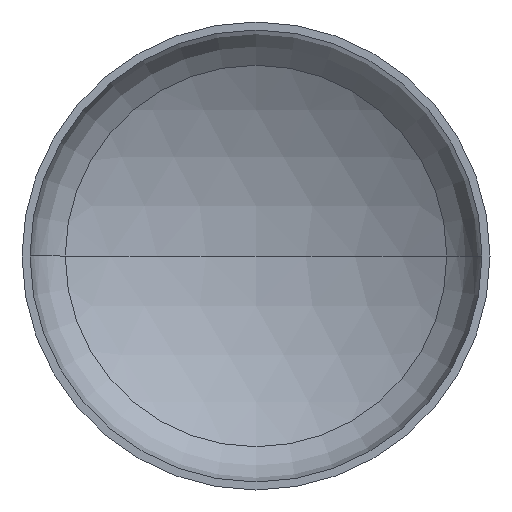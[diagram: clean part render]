
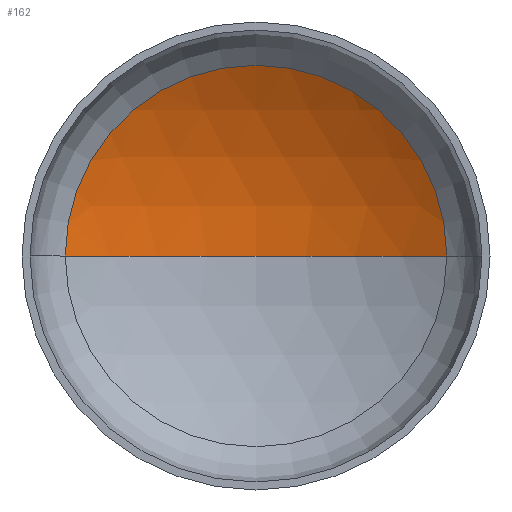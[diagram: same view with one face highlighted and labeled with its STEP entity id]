
A CAD part, front view. The second image highlights one B-rep face of the part: STEP entity #162.
In plain terms, the highlighted spherical face has radius 2240 mm.
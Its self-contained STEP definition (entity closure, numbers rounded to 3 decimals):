
#6 = CARTESIAN_POINT ( 'NONE',  ( 0., -1407.567, 0. ) ) ;
#7 = AXIS2_PLACEMENT_3D ( 'NONE', #217, #339, #69 ) ;
#10 = DIRECTION ( 'NONE',  ( -1., 0., 0. ) ) ;
#14 = DIRECTION ( 'NONE',  ( 0., 0., 1. ) ) ;
#15 = AXIS2_PLACEMENT_3D ( 'NONE', #6, #14, #203 ) ;
#19 = AXIS2_PLACEMENT_3D ( 'NONE', #117, #249, #74 ) ;
#37 = AXIS2_PLACEMENT_3D ( 'NONE', #246, #79, #10 ) ;
#41 = ORIENTED_EDGE ( 'NONE', *, *, #343, .T. ) ;
#69 = DIRECTION ( 'NONE',  ( 1., 0., 0. ) ) ;
#74 = DIRECTION ( 'NONE',  ( -1., 0., 0. ) ) ;
#77 = VERTEX_POINT ( 'NONE', #183 ) ;
#79 = DIRECTION ( 'NONE',  ( 0., 0., -1. ) ) ;
#96 = CARTESIAN_POINT ( 'NONE',  ( -1141.039, 520.03, 0. ) ) ;
#113 = EDGE_LOOP ( 'NONE', ( #122, #409, #41 ) ) ;
#117 = CARTESIAN_POINT ( 'NONE',  ( 0., -1407.567, 0. ) ) ;
#122 = ORIENTED_EDGE ( 'NONE', *, *, #329, .F. ) ;
#152 = CARTESIAN_POINT ( 'NONE',  ( 0., 832.433, 0. ) ) ;
#153 = CIRCLE ( 'NONE', #7, 1141.039 ) ;
#162 = ADVANCED_FACE ( 'NONE', ( #356 ), #350, .F. ) ;
#183 = CARTESIAN_POINT ( 'NONE',  ( 1141.039, 520.03, 0. ) ) ;
#203 = DIRECTION ( 'NONE',  ( 1., 0., 0. ) ) ;
#207 = VERTEX_POINT ( 'NONE', #152 ) ;
#217 = CARTESIAN_POINT ( 'NONE',  ( 0., 520.03, 0. ) ) ;
#246 = CARTESIAN_POINT ( 'NONE',  ( 0., -1407.567, 0. ) ) ;
#249 = DIRECTION ( 'NONE',  ( 0., 0., -1. ) ) ;
#318 = CIRCLE ( 'NONE', #15, 2240. ) ;
#326 = EDGE_CURVE ( 'NONE', #207, #77, #403, .T. ) ;
#329 = EDGE_CURVE ( 'NONE', #207, #371, #318, .T. ) ;
#339 = DIRECTION ( 'NONE',  ( 0., -1., 0. ) ) ;
#343 = EDGE_CURVE ( 'NONE', #77, #371, #153, .T. ) ;
#350 = SPHERICAL_SURFACE ( 'NONE', #37, 2240. ) ;
#356 = FACE_OUTER_BOUND ( 'NONE', #113, .T. ) ;
#371 = VERTEX_POINT ( 'NONE', #96 ) ;
#403 = CIRCLE ( 'NONE', #19, 2240. ) ;
#409 = ORIENTED_EDGE ( 'NONE', *, *, #326, .T. ) ;
